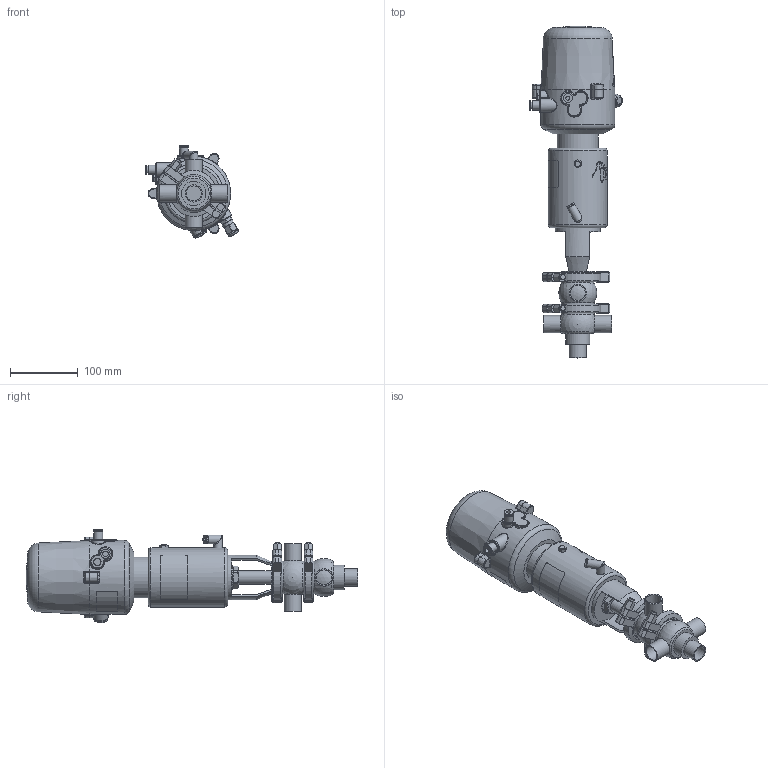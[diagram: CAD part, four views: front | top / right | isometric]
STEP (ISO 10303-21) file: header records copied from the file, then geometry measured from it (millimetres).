
FILE_DESCRIPTION (( 'STEP AP214' ), '1' );
FILE_NAME ('INNOVA K G W OD 1 T1 AS NC & C-TOP S_10.240.16.0082.STEP', '2024-08-06T09:05:11', ( '' ), ( '' ), 'SwSTEP 2.0', 'SolidWorks 2023', '' );
FILE_SCHEMA (( 'AUTOMOTIVE_DESIGN' ));
Length unit declared in the file: millimetre
Products named in the file (8): 10.240.15.0010_DN 025; 10.240.15.0017_Estàndard; 10.240.15.0014_T1 AS P0; 10.240.15.0007_OD 1"; 10.240.15.0003_OD 1"; INNOVA K G W OD 1 T1 AS NC & C-TOP S_10.240.16.0082; 10.426.15.0001_C-TOP S - 1 EV; 10.240.15.0001_DN 025
Assembly tree (8 placements, depth 2):
  INNOVA K G W OD 1 T1 AS NC & C-TOP S_10.240.16.0082
    10.240.15.0007_OD 1"
    10.240.15.0003_OD 1"
    10.240.15.0010_DN 025
    10.240.15.0014_T1 AS P0
    10.240.15.0017_Estàndard
    10.426.15.0001_C-TOP S - 1 EV
    10.240.15.0001_DN 025  x2
Bounding box: 136.88 x 489 x 137.63 mm (x, y, z)
Volume: 2497012.1 mm3; surface area: 233279.8 mm2
Topology: 8 solids, 8 shells, 1185 faces, 2862 edges, 1905 vertices
Faces by surface type: plane 412, cylinder 361, cone 205, bspline 160, torus 37, sphere 10
Full cylindrical faces by diameter (mm): 0.371 x17, 0.512 x16, 0.658 x16, 0.795 x16, 0.94 x15, 1.098 x15, 1.241 x13, 1.382 x13, 1.523 x11, 1.669 x10, 2.201 x1, 4 x2, 5.5 x2, 6 x2, 6.15 x1, 8 x6, 8.5 x1, 10 x1, 10.5 x1, 11 x2, 12.5 x3, 13 x2, 13.5 x2, 16 x1, 17 x3, 20 x3, 20.5 x1, 22 x2, 22.1 x5, 25.4 x5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
Entity records: 57297 total; most frequent: CARTESIAN_POINT 26823, ORIENTED_EDGE 4558, DIRECTION 3711, EDGE_CURVE 2279, VERTEX_POINT 1622, EDGE_LOOP 1589, AXIS2_PLACEMENT_3D 1523, FACE_OUTER_BOUND 1349
